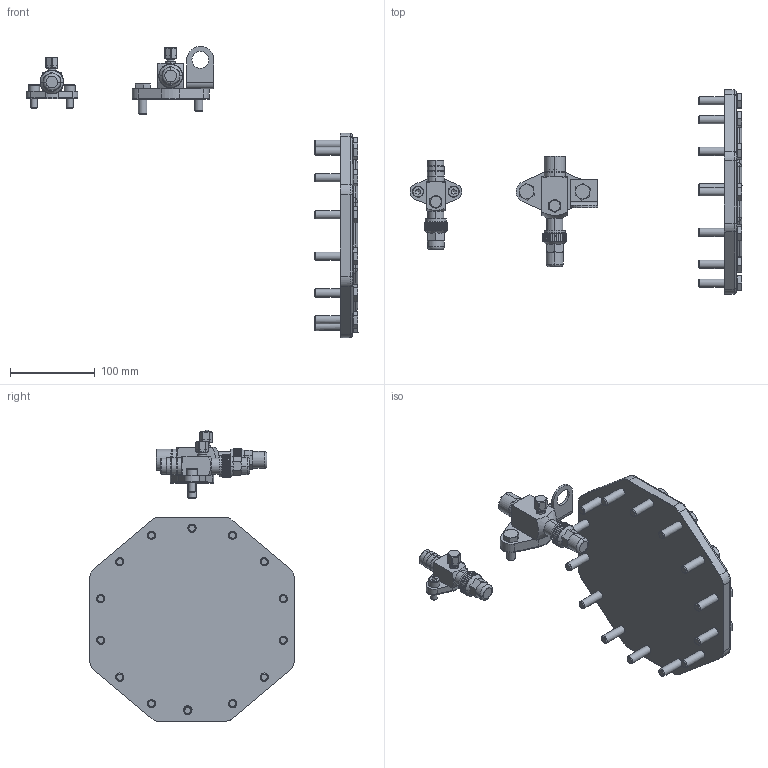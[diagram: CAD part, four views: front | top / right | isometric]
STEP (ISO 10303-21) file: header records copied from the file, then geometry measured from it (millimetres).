
FILE_DESCRIPTION(/* description */ (''),/* implementation_level */ '2;1');
FILE_NAME(/* name */ '4FES.stp',/* time_stamp */ '2023-10-24T11:58:49+02:00',/* author */ (''),/* organization */ (''),/* preprocessor_version */ 'ST-DEVELOPER v19.3',/* originating_system */ 'SIEMENS PLM Software NX2212.3001',/* authorisation */ '');
FILE_SCHEMA (('AUTOMOTIVE_DESIGN { 1 0 10303 214 3 1 1 1 }'));
Length unit declared in the file: millimetre
Products named in the file (4): HOUSING-COVER-2EC-4DC; SHUT-OFF-VALVE-COMPL-D22L; SHUT-OFF-VALVE-COMPL-D16L; 4FES
Assembly tree (3 placements, depth 2):
  4FES
    SHUT-OFF-VALVE-COMPL-D16L
    SHUT-OFF-VALVE-COMPL-D22L
    HOUSING-COVER-2EC-4DC
Bounding box: 391.29 x 241.2 x 343.6 mm (x, y, z)
Volume: 1080284 mm3; surface area: 174137 mm2
Topology: 3 solids, 3 shells, 1139 faces, 2909 edges, 1848 vertices
Faces by surface type: plane 628, cylinder 242, cone 213, torus 32, bspline 16, sphere 8
Full cylindrical faces by diameter (mm): 7.794 x2, 9 x2, 9.76 x14, 10 x2, 11 x2, 13 x2, 18.5 x1, 20 x2, 34.5 x1
Entity records: 39822 total; most frequent: CARTESIAN_POINT 6953, ORIENTED_EDGE 5560, DIRECTION 5547, EDGE_CURVE 2780, AXIS2_PLACEMENT_3D 2001, VERTEX_POINT 1813, LINE 1545, VECTOR 1545
